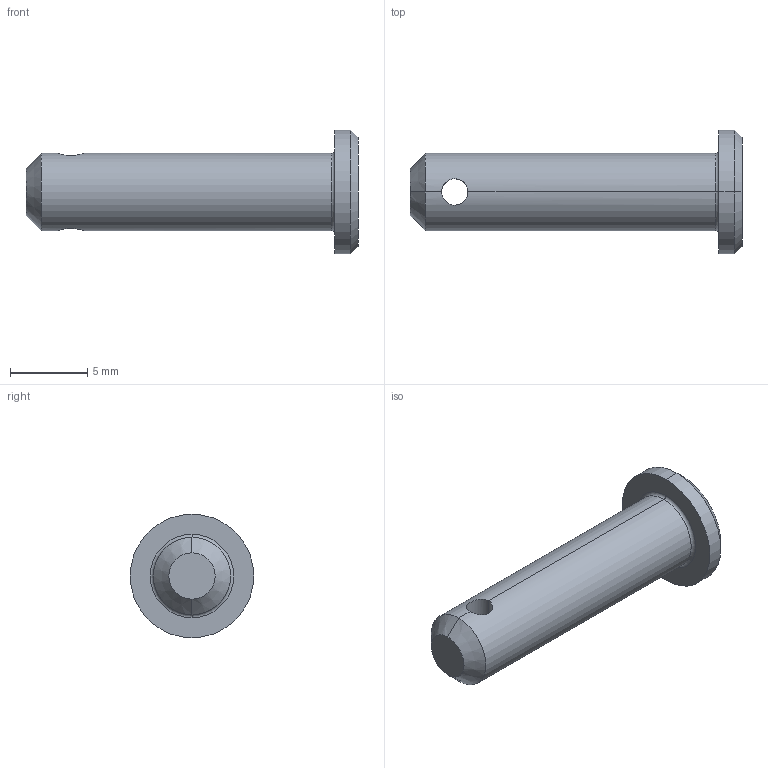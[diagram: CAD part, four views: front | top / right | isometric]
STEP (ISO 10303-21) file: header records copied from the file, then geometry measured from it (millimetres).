
FILE_DESCRIPTION (( 'STEP AP203' ), '1' );
FILE_NAME ('Wiberger-sms2360_5x20.step', '2012-10-09T08:57:50', ( 'Magnus' ), ( 'Wiberger' ), 'SwSTEP 2.0', 'SolidWorks 2011', '' );
FILE_SCHEMA (( 'CONFIG_CONTROL_DESIGN' ));
Length unit declared in the file: millimetre
Products named in the file (1): Wiberger-sms2360_5x20
Bounding box: 21.5 x 8 x 8 mm (x, y, z)
Volume: 447.2 mm3; surface area: 454.2 mm2
Topology: 1 solids, 1 shells, 15 faces, 32 edges, 18 vertices
Faces by surface type: cylinder 6, cone 4, plane 3, torus 2
Entity records: 543 total; most frequent: CARTESIAN_POINT 134, DIRECTION 76, ORIENTED_EDGE 64, AXIS2_PLACEMENT_3D 32, EDGE_CURVE 32, VERTEX_POINT 18, CIRCLE 16, EDGE_LOOP 16
